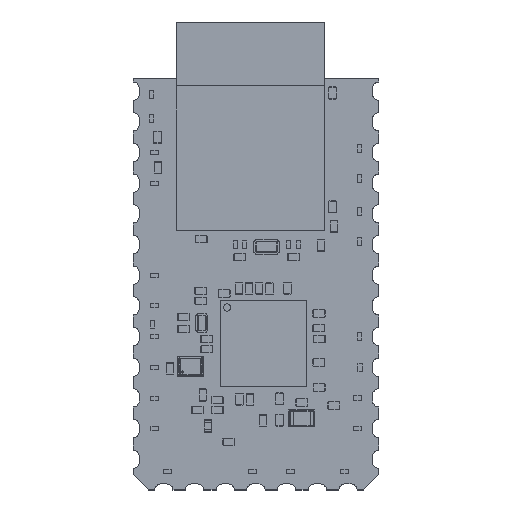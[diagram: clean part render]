
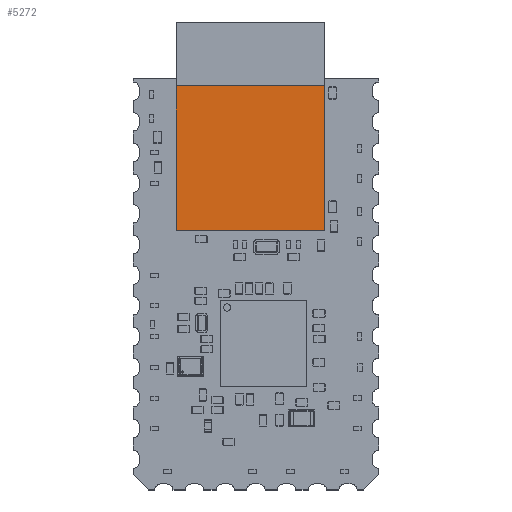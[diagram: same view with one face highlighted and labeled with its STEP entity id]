
A CAD part, top view. The second image highlights one B-rep face of the part: STEP entity #5272.
In plain terms, the highlighted planar face has unit normal (0, 0, 1).
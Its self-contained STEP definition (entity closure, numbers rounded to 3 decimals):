
#5111 = VERTEX_POINT('',#5112);
#5112 = CARTESIAN_POINT('',(-6.141,5.996,0.6));
#5118 = EDGE_CURVE('',#5111,#5119,#5121,.T.);
#5119 = VERTEX_POINT('',#5120);
#5120 = CARTESIAN_POINT('',(6.129,5.996,0.6));
#5121 = LINE('',#5122,#5123);
#5122 = CARTESIAN_POINT('',(-6.141,5.996,0.6));
#5123 = VECTOR('',#5124,1.);
#5124 = DIRECTION('',(1.,0.,0.));
#5149 = EDGE_CURVE('',#5119,#5150,#5152,.T.);
#5150 = VERTEX_POINT('',#5151);
#5151 = CARTESIAN_POINT('',(6.141,5.984,0.6));
#5152 = LINE('',#5153,#5154);
#5153 = CARTESIAN_POINT('',(6.129,5.996,0.6));
#5154 = VECTOR('',#5155,1.);
#5155 = DIRECTION('',(0.707,-0.707,0.));
#5180 = EDGE_CURVE('',#5150,#5181,#5183,.T.);
#5181 = VERTEX_POINT('',#5182);
#5182 = CARTESIAN_POINT('',(6.141,-5.996,0.6));
#5183 = LINE('',#5184,#5185);
#5184 = CARTESIAN_POINT('',(6.141,5.984,0.6));
#5185 = VECTOR('',#5186,1.);
#5186 = DIRECTION('',(0.,-1.,0.));
#5211 = EDGE_CURVE('',#5181,#5212,#5214,.T.);
#5212 = VERTEX_POINT('',#5213);
#5213 = CARTESIAN_POINT('',(-6.139,-5.996,0.6));
#5214 = LINE('',#5215,#5216);
#5215 = CARTESIAN_POINT('',(6.141,-5.996,0.6));
#5216 = VECTOR('',#5217,1.);
#5217 = DIRECTION('',(-1.,0.,0.));
#5242 = EDGE_CURVE('',#5212,#5111,#5243,.T.);
#5243 = LINE('',#5244,#5245);
#5244 = CARTESIAN_POINT('',(-6.139,-5.996,0.6));
#5245 = VECTOR('',#5246,1.);
#5246 = DIRECTION('',(0.,1.,0.));
#5272 = ADVANCED_FACE('',(#5273),#5280,.F.);
#5273 = FACE_BOUND('',#5274,.F.);
#5274 = EDGE_LOOP('',(#5275,#5276,#5277,#5278,#5279));
#5275 = ORIENTED_EDGE('',*,*,#5118,.T.);
#5276 = ORIENTED_EDGE('',*,*,#5149,.T.);
#5277 = ORIENTED_EDGE('',*,*,#5180,.T.);
#5278 = ORIENTED_EDGE('',*,*,#5211,.T.);
#5279 = ORIENTED_EDGE('',*,*,#5242,.T.);
#5280 = PLANE('',#5281);
#5281 = AXIS2_PLACEMENT_3D('',#5282,#5283,#5284);
#5282 = CARTESIAN_POINT('',(-0.001,-0.001,
    0.6));
#5283 = DIRECTION('',(-0.,-0.,-1.));
#5284 = DIRECTION('',(-1.,0.,0.));
